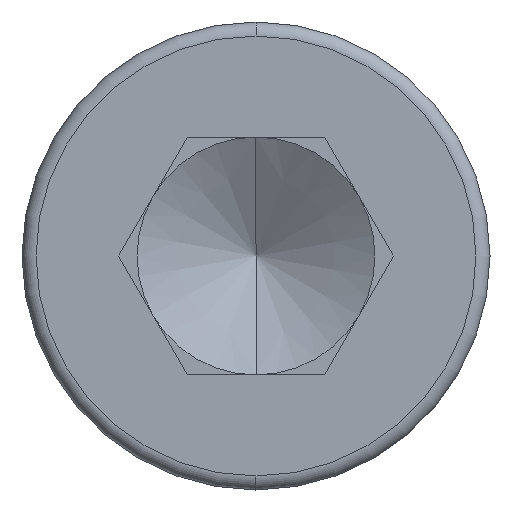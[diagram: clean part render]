
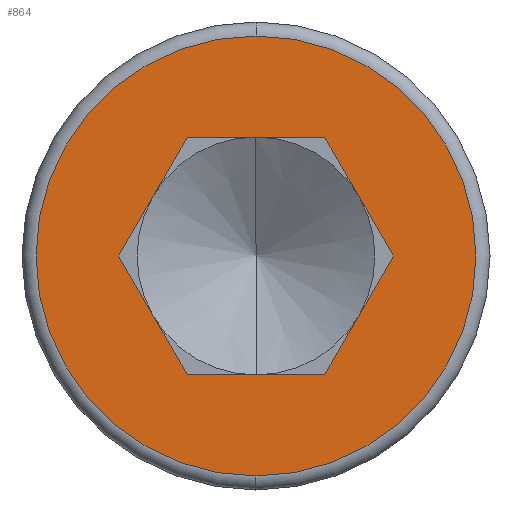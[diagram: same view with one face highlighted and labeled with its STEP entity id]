
A CAD part, left-side view. The second image highlights one B-rep face of the part: STEP entity #864.
In plain terms, the highlighted planar face has unit normal (-1, 0, 0).
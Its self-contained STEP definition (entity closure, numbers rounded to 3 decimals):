
#80 = VECTOR ( 'NONE', #124, 1000. ) ;
#124 = DIRECTION ( 'NONE',  ( 0., -0.5, -0.866 ) ) ;
#203 = AXIS2_PLACEMENT_3D ( 'NONE', #2366, #1250, #4623 ) ;
#225 = LINE ( 'NONE', #2946, #428 ) ;
#359 = EDGE_CURVE ( 'NONE', #1816, #6649, #5376, .T. ) ;
#428 = VECTOR ( 'NONE', #4749, 1000. ) ;
#756 = VERTEX_POINT ( 'NONE', #6516 ) ;
#852 = ORIENTED_EDGE ( 'NONE', *, *, #2675, .F. ) ;
#864 = ADVANCED_FACE ( 'NONE', ( #2955, #2310 ), #6292, .T. ) ;
#1072 = CARTESIAN_POINT ( 'NONE',  ( 0., 1.468, -2.542 ) ) ;
#1217 = VERTEX_POINT ( 'NONE', #3012 ) ;
#1250 = DIRECTION ( 'NONE',  ( -1., 0., 0. ) ) ;
#1273 = ORIENTED_EDGE ( 'NONE', *, *, #1584, .T. ) ;
#1584 = EDGE_CURVE ( 'NONE', #5002, #1217, #3298, .T. ) ;
#1787 = LINE ( 'NONE', #4074, #80 ) ;
#1816 = VERTEX_POINT ( 'NONE', #5860 ) ;
#1947 = CARTESIAN_POINT ( 'NONE',  ( 0., 2.935, 0. ) ) ;
#1976 = CIRCLE ( 'NONE', #4741, 4.7 ) ;
#1977 = DIRECTION ( 'NONE',  ( 0., -1., 0. ) ) ;
#1985 = AXIS2_PLACEMENT_3D ( 'NONE', #2389, #2880, #3559 ) ;
#2091 = VECTOR ( 'NONE', #5303, 1000. ) ;
#2255 = EDGE_CURVE ( 'NONE', #4030, #756, #5952, .T. ) ;
#2310 = FACE_OUTER_BOUND ( 'NONE', #5454, .T. ) ;
#2366 = CARTESIAN_POINT ( 'NONE',  ( 0., 0., 0. ) ) ;
#2389 = CARTESIAN_POINT ( 'NONE',  ( 0., 0., 0. ) ) ;
#2454 = CARTESIAN_POINT ( 'NONE',  ( 0., -1.468, 2.542 ) ) ;
#2634 = ORIENTED_EDGE ( 'NONE', *, *, #2255, .F. ) ;
#2675 = EDGE_CURVE ( 'NONE', #2792, #4030, #1787, .T. ) ;
#2792 = VERTEX_POINT ( 'NONE', #1947 ) ;
#2880 = DIRECTION ( 'NONE',  ( -1., 0., 0. ) ) ;
#2894 = VECTOR ( 'NONE', #4052, 1000. ) ;
#2902 = VERTEX_POINT ( 'NONE', #5400 ) ;
#2946 = CARTESIAN_POINT ( 'NONE',  ( 0., -2.935, 0. ) ) ;
#2955 = FACE_BOUND ( 'NONE', #6085, .T. ) ;
#2967 = LINE ( 'NONE', #5208, #2894 ) ;
#3012 = CARTESIAN_POINT ( 'NONE',  ( 0., 0., -4.7 ) ) ;
#3073 = ORIENTED_EDGE ( 'NONE', *, *, #359, .F. ) ;
#3079 = CARTESIAN_POINT ( 'NONE',  ( 0., 1.468, -2.542 ) ) ;
#3280 = EDGE_CURVE ( 'NONE', #1217, #5002, #1976, .T. ) ;
#3298 = CIRCLE ( 'NONE', #203, 4.7 ) ;
#3513 = DIRECTION ( 'NONE',  ( 0., -0.5, 0.866 ) ) ;
#3559 = DIRECTION ( 'NONE',  ( 0., 0., 1. ) ) ;
#3623 = CARTESIAN_POINT ( 'NONE',  ( 0., 2.935, 0. ) ) ;
#3681 = EDGE_CURVE ( 'NONE', #2792, #6649, #4711, .T. ) ;
#3790 = EDGE_CURVE ( 'NONE', #2902, #756, #225, .T. ) ;
#3808 = ORIENTED_EDGE ( 'NONE', *, *, #3280, .T. ) ;
#4030 = VERTEX_POINT ( 'NONE', #1072 ) ;
#4052 = DIRECTION ( 'NONE',  ( 0., -0.5, -0.866 ) ) ;
#4074 = CARTESIAN_POINT ( 'NONE',  ( 0., 2.935, 0. ) ) ;
#4366 = ORIENTED_EDGE ( 'NONE', *, *, #3681, .T. ) ;
#4623 = DIRECTION ( 'NONE',  ( 0., 0., 1. ) ) ;
#4711 = LINE ( 'NONE', #3623, #6891 ) ;
#4741 = AXIS2_PLACEMENT_3D ( 'NONE', #5919, #5883, #5489 ) ;
#4749 = DIRECTION ( 'NONE',  ( 0., 0.5, -0.866 ) ) ;
#4875 = EDGE_CURVE ( 'NONE', #1816, #2902, #2967, .T. ) ;
#5002 = VERTEX_POINT ( 'NONE', #5780 ) ;
#5208 = CARTESIAN_POINT ( 'NONE',  ( 0., -1.468, 2.542 ) ) ;
#5303 = DIRECTION ( 'NONE',  ( 0., 1., 0. ) ) ;
#5376 = LINE ( 'NONE', #2454, #2091 ) ;
#5400 = CARTESIAN_POINT ( 'NONE',  ( 0., -2.935, 0. ) ) ;
#5454 = EDGE_LOOP ( 'NONE', ( #1273, #3808 ) ) ;
#5489 = DIRECTION ( 'NONE',  ( 0., 0., 1. ) ) ;
#5554 = VECTOR ( 'NONE', #1977, 1000. ) ;
#5780 = CARTESIAN_POINT ( 'NONE',  ( 0., 0., 4.7 ) ) ;
#5860 = CARTESIAN_POINT ( 'NONE',  ( 0., -1.468, 2.542 ) ) ;
#5868 = ORIENTED_EDGE ( 'NONE', *, *, #4875, .T. ) ;
#5883 = DIRECTION ( 'NONE',  ( -1., 0., 0. ) ) ;
#5919 = CARTESIAN_POINT ( 'NONE',  ( 0., 0., 0. ) ) ;
#5952 = LINE ( 'NONE', #3079, #5554 ) ;
#6045 = CARTESIAN_POINT ( 'NONE',  ( 0., 1.468, 2.542 ) ) ;
#6085 = EDGE_LOOP ( 'NONE', ( #4366, #3073, #5868, #7257, #2634, #852 ) ) ;
#6292 = PLANE ( 'NONE',  #1985 ) ;
#6516 = CARTESIAN_POINT ( 'NONE',  ( 0., -1.468, -2.542 ) ) ;
#6649 = VERTEX_POINT ( 'NONE', #6045 ) ;
#6891 = VECTOR ( 'NONE', #3513, 1000. ) ;
#7257 = ORIENTED_EDGE ( 'NONE', *, *, #3790, .T. ) ;
